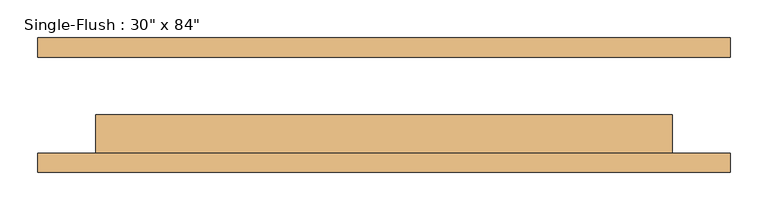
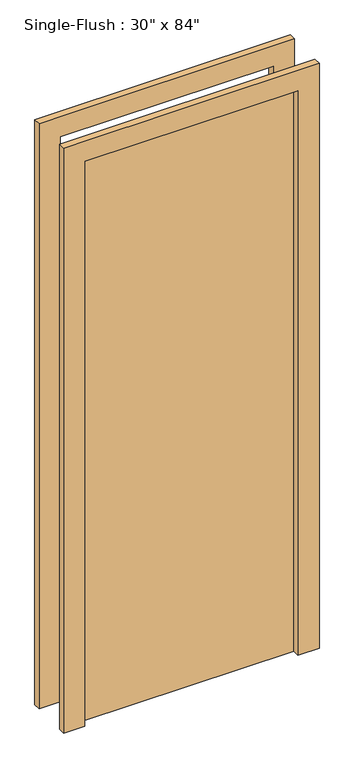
"""IFC4 building model written with IfcOpenShell, lengths in millimetres: door geometry."""

from ifc_helpers import new_model, si_unit, frame, origin, origin_with_axes, place, context, project, spatial, polyline, outline, extrude, source, transform, mapped, element, save


def door_e36758a9(model_context):
    return source(origin(), model_context, "Body", "SweptSolid", [
        extrude(outline(polyline([(2209.8, -457.2), (0.0, -457.2), (0.0, -381.0), (2133.6, -381.0), (2133.6, 381.0), (0.0, 381.0), (0.0, 457.2), (2209.8, 457.2), (2209.8, -457.2)])), frame((0.0, -88.9, 0.0), z_axis=(0.0, 1.0, 0.0), x_axis=(0.0, 0.0, 1.0)), (0.0, 0.0, 1.0), 25.4),
        extrude(outline(polyline([(2209.8, 457.2), (2209.8, -457.2), (0.0, -457.2), (0.0, -381.0), (2133.6, -381.0), (2133.6, 381.0), (0.0, 381.0), (0.0, 457.2), (2209.8, 457.2)])), frame((0.0, 63.5, 0.0), z_axis=(0.0, 1.0, 0.0), x_axis=(0.0, 0.0, 1.0)), (0.0, 0.0, 1.0), 25.4),
        extrude(outline(polyline([(381.0, -12.7), (381.0, -63.5), (-381.0, -63.5), (-381.0, -12.7), (381.0, -12.7)])), origin_with_axes(), (0.0, 0.0, 1.0), 2133.6),
    ])


if __name__ == "__main__":
    model = new_model("IFC4")
    model_context = context("Model", 3, world=origin())
    ifc_project = project(units=[si_unit("LENGTHUNIT", "METRE", prefix="MILLI")], contexts=[model_context])
    site = spatial("IfcSite", under=ifc_project)
    building = spatial("IfcBuilding", under=site)
    placement = place(None, origin())
    door_shape = door_e36758a9(model_context)
    element("IfcDoor", 1, ObjectType="Single-Flush : 30\" x 84\"", at=placement, inside=building, context=model_context, shape_type="MappedRepresentation", body=[
        mapped(door_shape, transform((0.0, 0.0, 0.0), x_axis=(1.0, 0.0, 0.0), y_axis=(0.0, 1.0, 0.0), z_axis=(0.0, 0.0, 1.0))),
    ])
    save(model, "model.ifc")
